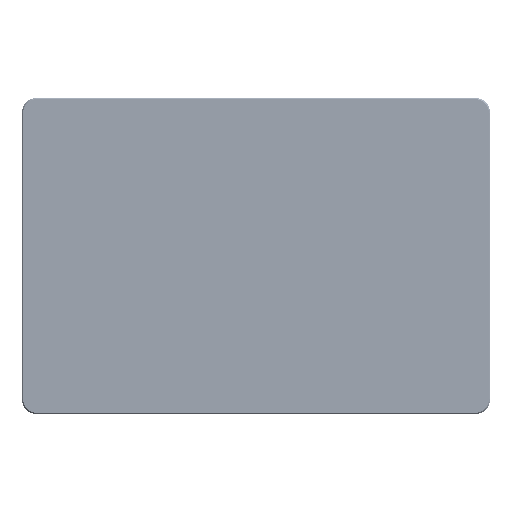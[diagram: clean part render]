
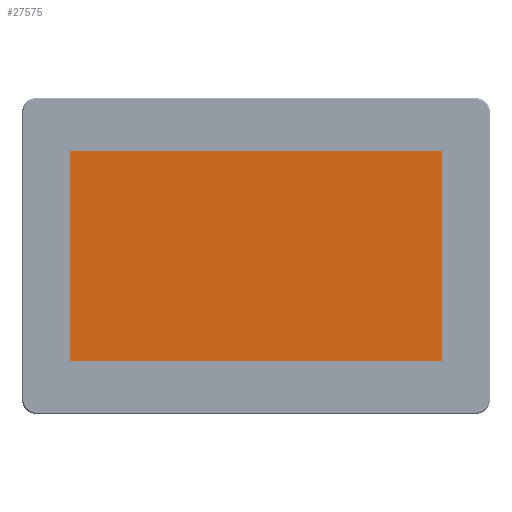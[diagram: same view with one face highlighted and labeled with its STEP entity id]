
A CAD part, top view. The second image highlights one B-rep face of the part: STEP entity #27575.
In plain terms, the highlighted planar face has unit normal (0, 0, 1).
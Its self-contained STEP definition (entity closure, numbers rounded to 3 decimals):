
#14713=PLANE('',#225548);
#27575=ADVANCED_FACE('',(#40751),#14713,.T.);
#40751=FACE_OUTER_BOUND('',#54035,.T.);
#54035=EDGE_LOOP('',(#115699,#115700,#115701,#115702));
#66461=LINE('',#365873,#82629);
#66465=LINE('',#365882,#82633);
#66468=LINE('',#365888,#82636);
#66471=LINE('',#365894,#82639);
#82629=VECTOR('',#253991,1.);
#82633=VECTOR('',#253997,1.);
#82636=VECTOR('',#254002,1.);
#82639=VECTOR('',#254007,1.);
#115699=ORIENTED_EDGE('',*,*,#189631,.T.);
#115700=ORIENTED_EDGE('',*,*,#189641,.T.);
#115701=ORIENTED_EDGE('',*,*,#189638,.T.);
#115702=ORIENTED_EDGE('',*,*,#189635,.T.);
#165977=VERTEX_POINT('',#365874);
#165978=VERTEX_POINT('',#365875);
#165981=VERTEX_POINT('',#365883);
#165983=VERTEX_POINT('',#365889);
#189631=EDGE_CURVE('',#165977,#165978,#66461,.T.);
#189635=EDGE_CURVE('',#165981,#165977,#66465,.T.);
#189638=EDGE_CURVE('',#165983,#165981,#66468,.T.);
#189641=EDGE_CURVE('',#165978,#165983,#66471,.T.);
#225548=AXIS2_PLACEMENT_3D('',#365898,#254013,#254014);
#253991=DIRECTION('',(0.,-1.,0.));
#253997=DIRECTION('',(-1.,0.,0.));
#254002=DIRECTION('',(0.,1.,0.));
#254007=DIRECTION('',(1.,0.,0.));
#254013=DIRECTION('',(0.,0.,1.));
#254014=DIRECTION('',(1.,0.,0.));
#365873=CARTESIAN_POINT('',(-205.105,88.082,10.25));
#365874=CARTESIAN_POINT('',(-205.105,88.082,10.25));
#365875=CARTESIAN_POINT('',(-205.105,-56.698,10.25));
#365882=CARTESIAN_POINT('',(-205.105,88.082,10.25));
#365883=CARTESIAN_POINT('',(51.815,88.082,10.25));
#365888=CARTESIAN_POINT('',(51.815,88.082,10.25));
#365889=CARTESIAN_POINT('',(51.815,-56.698,10.25));
#365894=CARTESIAN_POINT('',(-205.105,-56.698,10.25));
#365898=CARTESIAN_POINT('',(-297.898,648.264,10.25));
